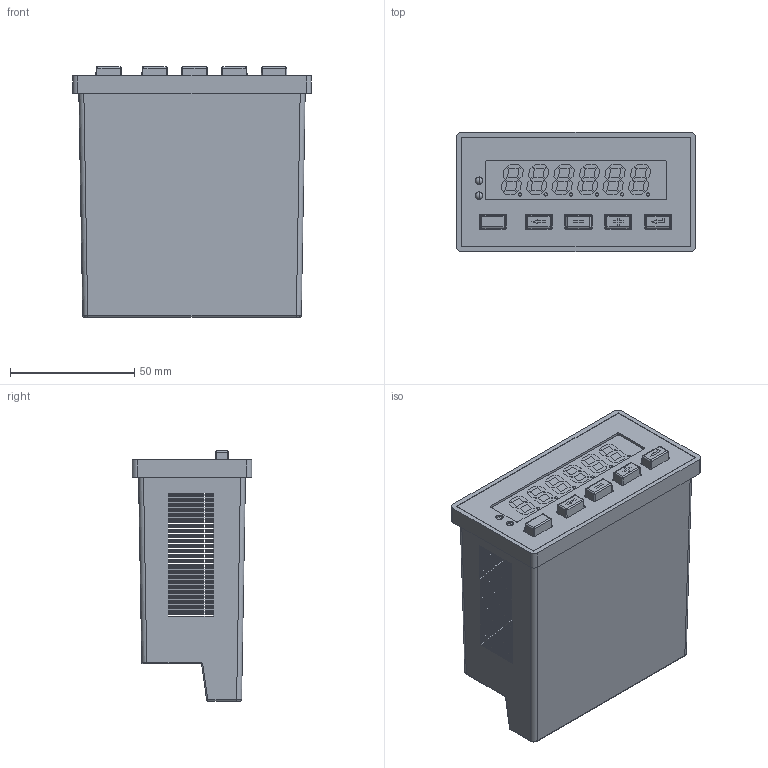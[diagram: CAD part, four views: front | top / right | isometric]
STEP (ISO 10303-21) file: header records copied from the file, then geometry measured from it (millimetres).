
FILE_DESCRIPTION (( 'STEP AP214' ), '1' );
FILE_NAME ('HR320AX.STEP', '2019-02-08T11:19:58', ( '' ), ( '' ), 'SwSTEP 2.0', 'SolidWorks 2019', '' );
FILE_SCHEMA (( 'AUTOMOTIVE_DESIGN' ));
Length unit declared in the file: millimetre
Products named in the file (10): HR230AX_Tastini_Invio; HR230AX_Tastini_Sinistra; HR320AX; HR230AX_Tastini_Piu; HR230AX_Tastini_Meno; HR320AX_Display; HR320AX_Fronte; HR230AX_Tastini_Rosso; HR320AX_Led; HR320AX_Base
Assembly tree (9 placements, depth 2):
  HR320AX
    HR320AX_Fronte
    HR320AX_Display
    HR320AX_Led
    HR230AX_Tastini_Rosso
    HR230AX_Tastini_Sinistra
    HR230AX_Tastini_Meno
    HR230AX_Tastini_Piu
    HR230AX_Tastini_Invio
    HR320AX_Base
Bounding box: 96 x 48 x 100.6 mm (x, y, z)
Volume: 289324.9 mm3; surface area: 208839.8 mm2
Topology: 9 solids, 9 shells, 762 faces, 2012 edges, 1300 vertices
Faces by surface type: plane 626, cylinder 82, bspline 28, cone 20, sphere 6
Entity records: 35110 total; most frequent: CARTESIAN_POINT 12024, ORIENTED_EDGE 3968, DIRECTION 3536, EDGE_CURVE 1984, VECTOR 1764, LINE 1764, VERTEX_POINT 1296, EDGE_LOOP 934
